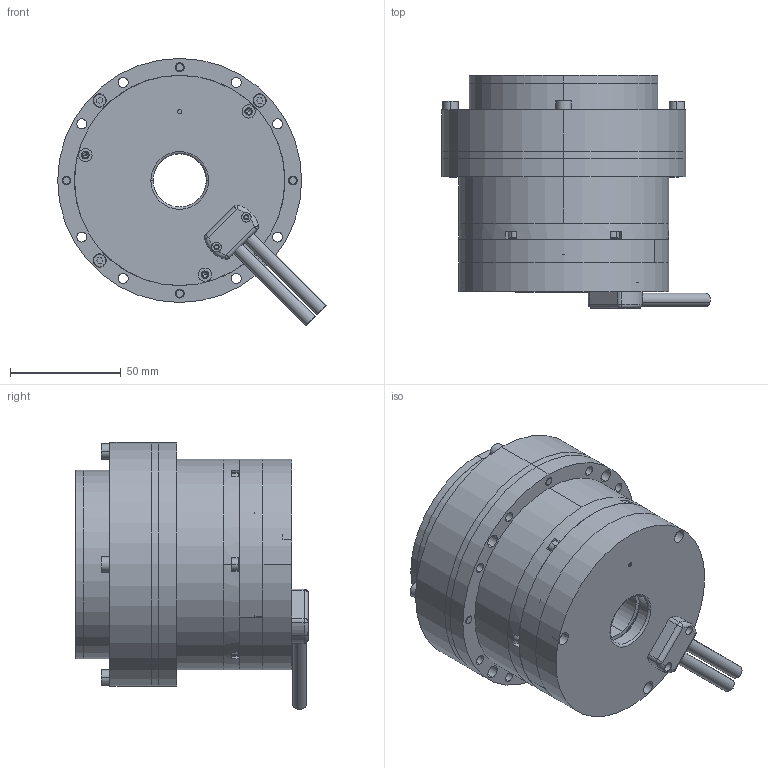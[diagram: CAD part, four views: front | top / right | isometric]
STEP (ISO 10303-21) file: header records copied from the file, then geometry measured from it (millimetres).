
FILE_DESCRIPTION (( 'STEP AP203' ), '1' );
FILE_NAME ('MT-RH25-N-V1.STEP', '2024-08-03T09:55:12', ( '' ), ( '' ), 'SwSTEP 2.0', 'SolidWorks 2020', '' );
FILE_SCHEMA (( 'CONFIG_CONTROL_DESIGN' ));
Length unit declared in the file: millimetre
Products named in the file (16): MT-RH25-1004B-V1; MT-RH25-N-V1; M4X30-12.9_GB.T 70.1-V1; WHS-25-100-I_2-V1; MT-RH25-1001B-V1; MT-RH25-2001-V1; WHS-25-100-I_1-V1_11; M3X8-12.9_GB.T 70.1    -V1; MT-RH25-1002-V1; MT-RH25-1010-V1_Default<偌樓馱>; MT-RH25-1003-V1; 25疏楷汜ん蟀諉粣-V1; M3X14-12.9_GB.T 70.1-V1; 盄擢_Default<偌樓馱>; MT-RH25-1007-V1_Default<偌樓馱>; WHS-25-100-I_3-V1
Assembly tree (33 placements, depth 2):
  MT-RH25-N-V1
    WHS-25-100-I_1-V1_11
    WHS-25-100-I_2-V1
    WHS-25-100-I_3-V1
    25疏楷汜ん蟀諉粣-V1
    MT-RH25-1002-V1
    MT-RH25-1003-V1
    MT-RH25-2001-V1
    M4X30-12.9_GB.T 70.1-V1  x4
    M3X8-12.9_GB.T 70.1    -V1  x10
    M3X14-12.9_GB.T 70.1-V1  x6
    MT-RH25-1007-V1_Default<偌樓馱>
    MT-RH25-1004B-V1
    MT-RH25-1010-V1_Default<偌樓馱>
    MT-RH25-1001B-V1
    盄擢_Default<偌樓馱>  x2
Bounding box: 121.11 x 105 x 120.41 mm (x, y, z)
Volume: 427334.4 mm3; surface area: 201755.1 mm2
Topology: 34 solids, 34 shells, 1136 faces, 2809 edges, 1794 vertices
Faces by surface type: cylinder 659, plane 358, cone 91, torus 24, sphere 4
Entity records: 30073 total; most frequent: DIRECTION 5369, CARTESIAN_POINT 4753, ORIENTED_EDGE 4434, AXIS2_PLACEMENT_3D 2242, EDGE_CURVE 2217, VERTEX_POINT 1450, CIRCLE 1312, EDGE_LOOP 1249
